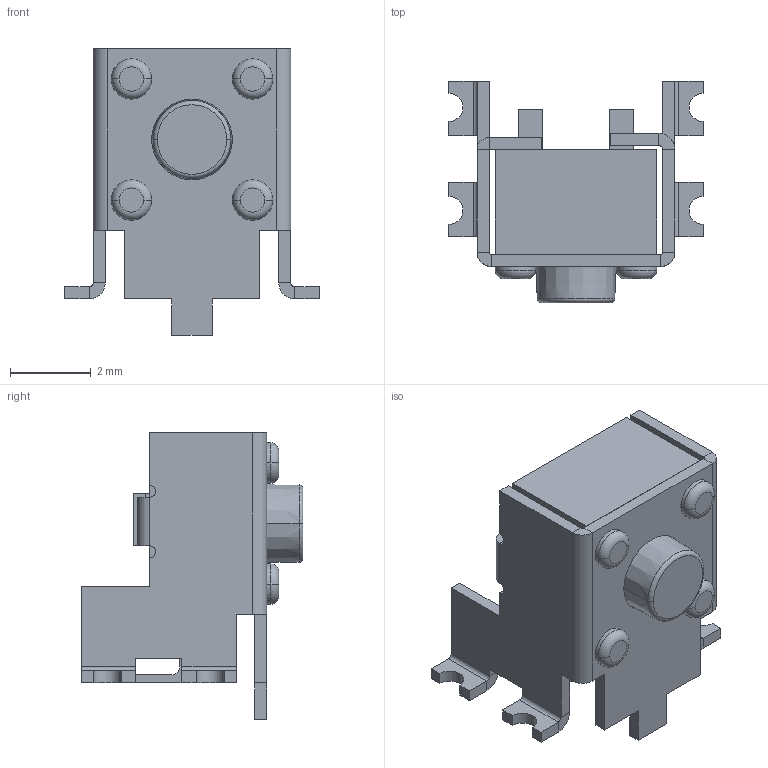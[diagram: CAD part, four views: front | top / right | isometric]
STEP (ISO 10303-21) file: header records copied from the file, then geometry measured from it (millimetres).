
FILE_DESCRIPTION((''),'2;1');
FILE_NAME('JQD4562L-C0381-G-101_ASM','2026-05-22T12:23:26',('Admin'),(''),'CREO PARAMETRIC BY PTC INC, 2019224','CREO PARAMETRIC BY PTC INC, 2019224','');
FILE_SCHEMA(('AUTOMOTIVE_DESIGN { 1 0 10303 214 1 1 1 1 }'));
Length unit declared in the file: millimetre
Products named in the file (3): JQD4562L-C0381-G-101_01; JQD4562L-C0381-G-101_02; JQD4562L-C0381-G-101_ASM
Assembly tree (2 placements, depth 2):
  JQD4562L-C0381-G-101_ASM
    JQD4562L-C0381-G-101_01
    JQD4562L-C0381-G-101_02
Bounding box: 6.3 x 5.5 x 7.1 mm (x, y, z)
Volume: 72.6 mm3; surface area: 265.2 mm2
Topology: 2 solids, 2 shells, 182 faces, 437 edges, 280 vertices
Faces by surface type: plane 117, cylinder 53, torus 10, cone 2
Entity records: 6070 total; most frequent: DIRECTION 953, CARTESIAN_POINT 897, ORIENTED_EDGE 854, EDGE_CURVE 427, AXIS2_PLACEMENT_3D 323, VECTOR 307, LINE 307, VERTEX_POINT 260
